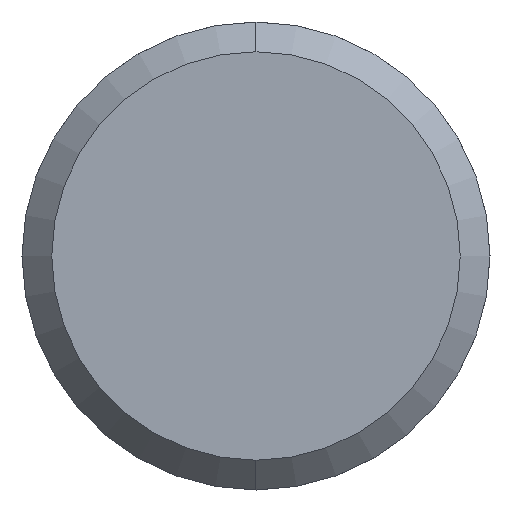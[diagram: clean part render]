
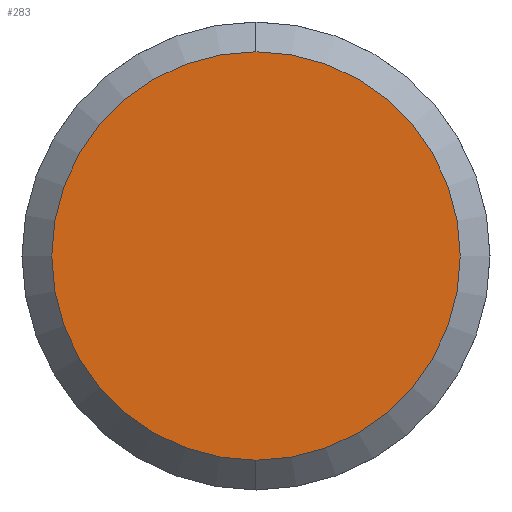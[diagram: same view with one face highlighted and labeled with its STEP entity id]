
A CAD part, left-side view. The second image highlights one B-rep face of the part: STEP entity #283.
In plain terms, the highlighted planar face has unit normal (-1, 0, 0).
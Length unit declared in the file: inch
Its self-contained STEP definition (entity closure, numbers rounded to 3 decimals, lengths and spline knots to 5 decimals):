
#21 = DIRECTION ( 'NONE',  ( 0., 0., -1. ) ) ;
#23 = DIRECTION ( 'NONE',  ( 1., 0., 0. ) ) ;
#45 = CIRCLE ( 'NONE', #76, 0.13748 ) ;
#55 = FACE_OUTER_BOUND ( 'NONE', #405, .T. ) ;
#56 = VERTEX_POINT ( 'NONE', #261 ) ;
#76 = AXIS2_PLACEMENT_3D ( 'NONE', #101, #23, #172 ) ;
#101 = CARTESIAN_POINT ( 'NONE',  ( 0., 0., 0. ) ) ;
#102 = ORIENTED_EDGE ( 'NONE', *, *, #391, .F. ) ;
#129 = AXIS2_PLACEMENT_3D ( 'NONE', #364, #402, #21 ) ;
#133 = CARTESIAN_POINT ( 'NONE',  ( 0., 0., -0.13748 ) ) ;
#140 = ORIENTED_EDGE ( 'NONE', *, *, #297, .F. ) ;
#146 = CIRCLE ( 'NONE', #129, 0.13748 ) ;
#172 = DIRECTION ( 'NONE',  ( 0., 0., -1. ) ) ;
#178 = CARTESIAN_POINT ( 'NONE',  ( 0., 0.13748, 0. ) ) ;
#203 = DIRECTION ( 'NONE',  ( -1., 0., 0. ) ) ;
#220 = AXIS2_PLACEMENT_3D ( 'NONE', #178, #203, #434 ) ;
#253 = PLANE ( 'NONE',  #220 ) ;
#261 = CARTESIAN_POINT ( 'NONE',  ( 0., 0., 0.13748 ) ) ;
#283 = ADVANCED_FACE ( 'NONE', ( #55 ), #253, .T. ) ;
#297 = EDGE_CURVE ( 'NONE', #371, #56, #146, .T. ) ;
#364 = CARTESIAN_POINT ( 'NONE',  ( 0., 0., 0. ) ) ;
#371 = VERTEX_POINT ( 'NONE', #133 ) ;
#391 = EDGE_CURVE ( 'NONE', #56, #371, #45, .T. ) ;
#402 = DIRECTION ( 'NONE',  ( 1., 0., 0. ) ) ;
#405 = EDGE_LOOP ( 'NONE', ( #140, #102 ) ) ;
#434 = DIRECTION ( 'NONE',  ( 0., 0., 1. ) ) ;
